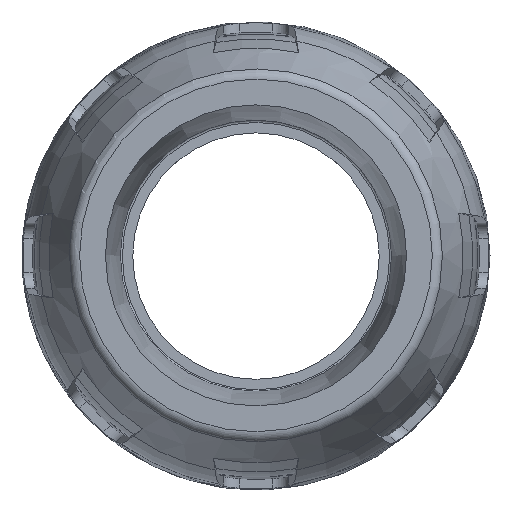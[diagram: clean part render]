
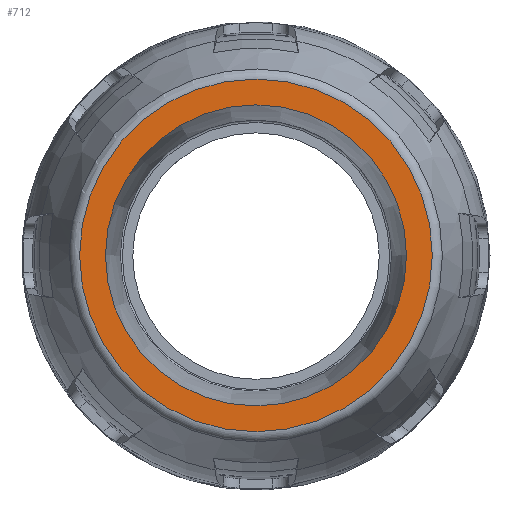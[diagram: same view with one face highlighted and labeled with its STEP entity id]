
A CAD part, top view. The second image highlights one B-rep face of the part: STEP entity #712.
In plain terms, the highlighted planar face has unit normal (0, 0, 1).
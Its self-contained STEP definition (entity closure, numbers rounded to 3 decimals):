
#712 = ADVANCED_FACE( '', ( #1480, #1481 ), #1482, .F. );
#1480 = FACE_OUTER_BOUND( '', #2597, .T. );
#1481 = FACE_BOUND( '', #2598, .T. );
#1482 = PLANE( '', #2599 );
#2597 = EDGE_LOOP( '', ( #4641 ) );
#2598 = EDGE_LOOP( '', ( #4642 ) );
#2599 = AXIS2_PLACEMENT_3D( '', #4643, #4644, #4645 );
#4641 = ORIENTED_EDGE( '', *, *, #5439, .F. );
#4642 = ORIENTED_EDGE( '', *, *, #5622, .F. );
#4643 = CARTESIAN_POINT( '', ( -935.252, 81.078, 28.459 ) );
#4644 = DIRECTION( '', ( 0., 0., -1. ) );
#4645 = DIRECTION( '', ( -1., 0., 0. ) );
#5439 = EDGE_CURVE( '', #6662, #6662, #6663, .F. );
#5622 = EDGE_CURVE( '', #6905, #6905, #6906, .T. );
#6662 = VERTEX_POINT( '', #8884 );
#6663 = CIRCLE( '', #8885, 32.917 );
#6905 = VERTEX_POINT( '', #9455 );
#6906 = CIRCLE( '', #9456, 28.098 );
#8884 = CARTESIAN_POINT( '', ( -933.852, 81.078, 28.459 ) );
#8885 = AXIS2_PLACEMENT_3D( '', #10316, #10317, #10318 );
#9455 = CARTESIAN_POINT( '', ( -929.033, 81.078, 28.459 ) );
#9456 = AXIS2_PLACEMENT_3D( '', #10498, #10499, #10500 );
#10316 = CARTESIAN_POINT( '', ( -900.935, 81.078, 28.459 ) );
#10317 = DIRECTION( '', ( 0., 0., 1. ) );
#10318 = DIRECTION( '', ( -1., 0., 0. ) );
#10498 = CARTESIAN_POINT( '', ( -900.935, 81.078, 28.459 ) );
#10499 = DIRECTION( '', ( 0., 0., 1. ) );
#10500 = DIRECTION( '', ( -1., 0., 0. ) );
